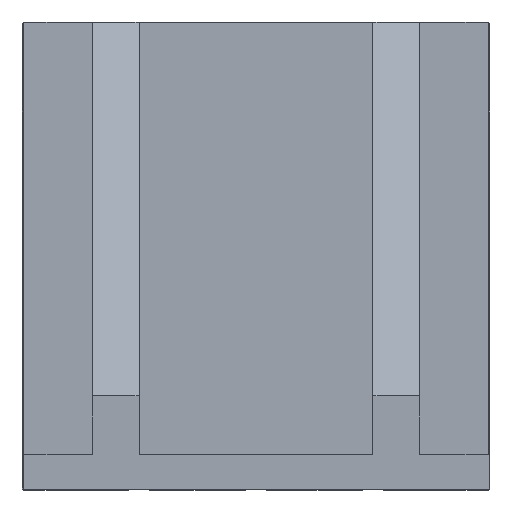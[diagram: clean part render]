
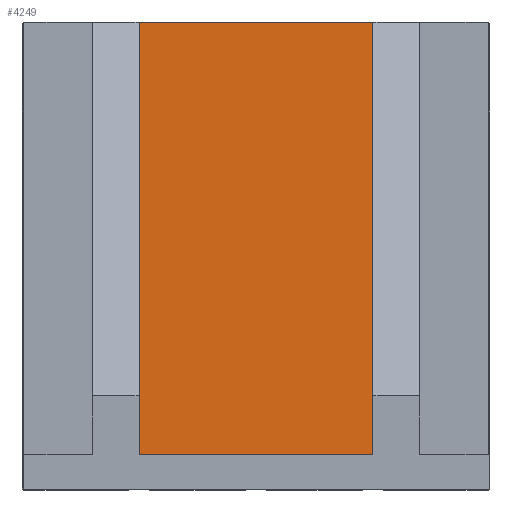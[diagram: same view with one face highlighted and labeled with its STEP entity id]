
A CAD part, top view. The second image highlights one B-rep face of the part: STEP entity #4249.
In plain terms, the highlighted planar face has unit normal (0, 0, 1).
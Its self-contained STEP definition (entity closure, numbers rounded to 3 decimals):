
#333=DIRECTION('',(0.,-1.,0.));
#334=VECTOR('',#333,370.);
#335=CARTESIAN_POINT('',(100.,400.,60.));
#336=LINE('',#335,#334);
#337=DIRECTION('',(0.,-1.,0.));
#338=VECTOR('',#337,370.);
#339=CARTESIAN_POINT('',(-100.,400.,60.));
#340=LINE('',#339,#338);
#341=DIRECTION('',(1.,0.,0.));
#342=VECTOR('',#341,200.);
#343=CARTESIAN_POINT('',(-100.,400.,60.));
#344=LINE('',#343,#342);
#433=DIRECTION('',(1.,0.,0.));
#434=VECTOR('',#433,200.);
#435=CARTESIAN_POINT('',(-100.,30.,60.));
#436=LINE('',#435,#434);
#2845=CARTESIAN_POINT('',(-100.,400.,60.));
#2846=CARTESIAN_POINT('',(-100.,30.,60.));
#2847=VERTEX_POINT('',#2845);
#2848=VERTEX_POINT('',#2846);
#2871=CARTESIAN_POINT('',(100.,400.,60.));
#2872=VERTEX_POINT('',#2871);
#2875=CARTESIAN_POINT('',(100.,30.,60.));
#2876=VERTEX_POINT('',#2875);
#4235=CARTESIAN_POINT('',(-200.,400.,60.));
#4236=DIRECTION('',(0.,0.,1.));
#4237=DIRECTION('',(0.,-1.,0.));
#4238=AXIS2_PLACEMENT_3D('',#4235,#4236,#4237);
#4239=PLANE('',#4238);
#4241=ORIENTED_EDGE('',*,*,#4240,.T.);
#4243=ORIENTED_EDGE('',*,*,#4242,.F.);
#4245=ORIENTED_EDGE('',*,*,#4244,.F.);
#4246=ORIENTED_EDGE('',*,*,#4014,.T.);
#4247=EDGE_LOOP('',(#4241,#4243,#4245,#4246));
#4248=FACE_OUTER_BOUND('',#4247,.F.);
#4249=ADVANCED_FACE('',(#4248),#4239,.T.);
#4014=EDGE_CURVE('',#2847,#2872,#344,.T.);
#4240=EDGE_CURVE('',#2872,#2876,#336,.T.);
#4242=EDGE_CURVE('',#2848,#2876,#436,.T.);
#4244=EDGE_CURVE('',#2847,#2848,#340,.T.);
